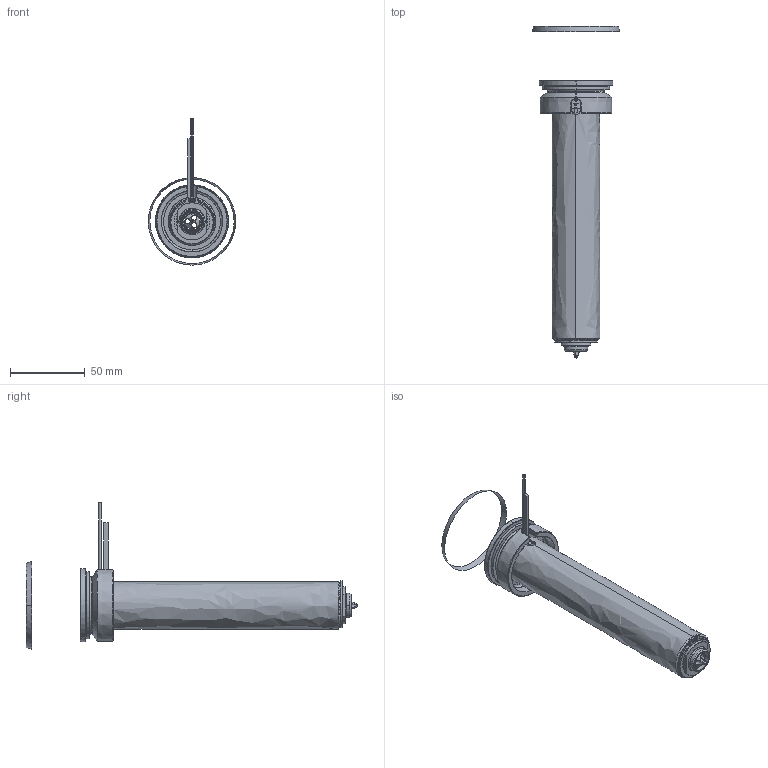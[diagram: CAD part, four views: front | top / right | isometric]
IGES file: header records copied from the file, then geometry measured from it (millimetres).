
Start section: SolidWorks IGES file using analytic representation for surfaces
Global section: file name: C:\Documents and Settings\ws-20\Desktop\TEM\UGEP5004-S-A-0 [Øf-1.55 ØC-13].IGS; native system: SolidWorks 2012; preprocessor: SolidWorks 2012; author: ws-20; date: 120426.102203; units: millimetre
Bounding box: 58.57 x 222.24 x 97.91 mm (x, y, z)
Surface area: 67934.2 mm2 (no closed solid volume)
Topology: 0 solids, 0 shells, 125 faces, 2408 edges, 2408 vertices
Faces by surface type: revolution 81, bspline 44
